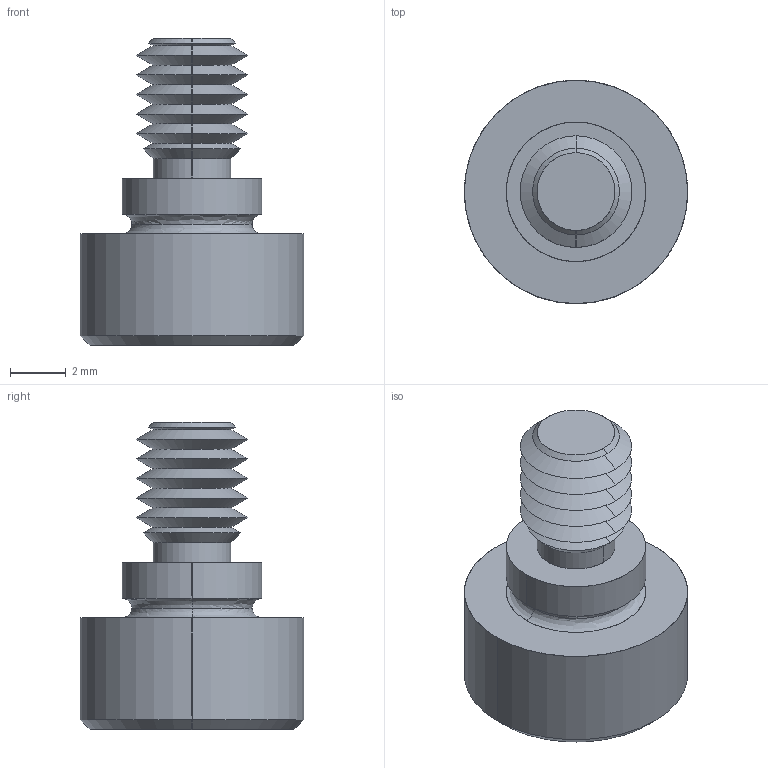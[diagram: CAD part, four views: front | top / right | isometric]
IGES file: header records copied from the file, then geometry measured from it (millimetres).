
Start section: SolidWorks IGES file using analytic representation for surfaces
Global section: file name: C:\Users\IanO\Documents\Temp Folder\GENERAL\SCREW REVISION\P0130_v2\P0130.T5_v2_20220106_IGES\P0130.050-002-T5.igs; native system: SolidWorks 2019; preprocessor: SolidWorks 2019; author: IanO; date: 220106.221147; units: millimetre
Bounding box: 8 x 8 x 11 mm (x, y, z)
Surface area: 347.4 mm2 (no closed solid volume)
Topology: 0 solids, 0 shells, 64 faces, 504 edges, 502 vertices
Faces by surface type: revolution 44, bspline 20
